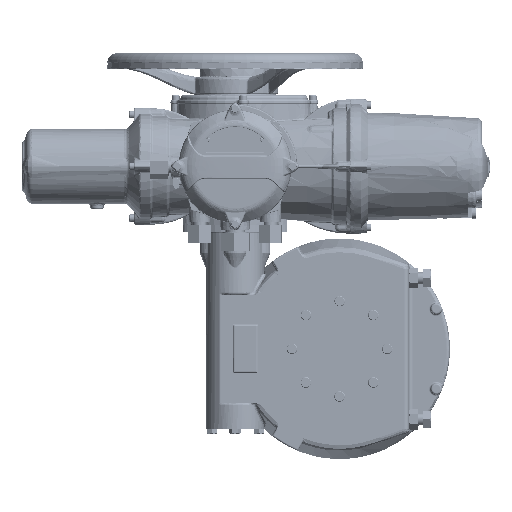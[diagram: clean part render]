
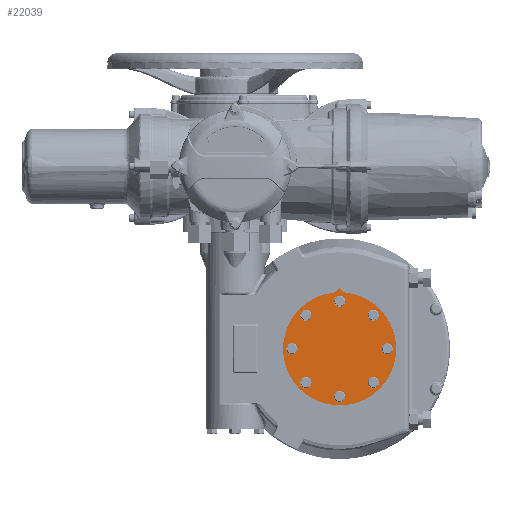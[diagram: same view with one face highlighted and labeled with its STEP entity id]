
A CAD part, front view. The second image highlights one B-rep face of the part: STEP entity #22039.
In plain terms, the highlighted planar face has unit normal (0, -1, 0).
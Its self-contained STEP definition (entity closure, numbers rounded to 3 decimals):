
#22039 = ADVANCED_FACE( '', ( #45640, #45641, #45642, #45643, #45644, #45645, #45646, #45647, #45648 ), #45649, .T. );
#45640 = FACE_BOUND( '', #307048, .T. );
#45641 = FACE_BOUND( '', #307049, .T. );
#45642 = FACE_BOUND( '', #307050, .T. );
#45643 = FACE_BOUND( '', #307051, .T. );
#45644 = FACE_BOUND( '', #307052, .T. );
#45645 = FACE_BOUND( '', #307053, .T. );
#45646 = FACE_BOUND( '', #307054, .T. );
#45647 = FACE_BOUND( '', #307055, .T. );
#45648 = FACE_OUTER_BOUND( '', #307056, .T. );
#45649 = PLANE( '', #307057 );
#307048 = EDGE_LOOP( '', ( #393980 ) );
#307049 = EDGE_LOOP( '', ( #393981 ) );
#307050 = EDGE_LOOP( '', ( #393982 ) );
#307051 = EDGE_LOOP( '', ( #393983 ) );
#307052 = EDGE_LOOP( '', ( #393984 ) );
#307053 = EDGE_LOOP( '', ( #393985 ) );
#307054 = EDGE_LOOP( '', ( #393986 ) );
#307055 = EDGE_LOOP( '', ( #393987 ) );
#307056 = EDGE_LOOP( '', ( #393988, #393989, #393990 ) );
#307057 = AXIS2_PLACEMENT_3D( '', #393991, #393992, #393993 );
#393980 = ORIENTED_EDGE( '', *, *, #423127, .F. );
#393981 = ORIENTED_EDGE( '', *, *, #407543, .F. );
#393982 = ORIENTED_EDGE( '', *, *, #425291, .F. );
#393983 = ORIENTED_EDGE( '', *, *, #407906, .F. );
#393984 = ORIENTED_EDGE( '', *, *, #400928, .F. );
#393985 = ORIENTED_EDGE( '', *, *, #421393, .F. );
#393986 = ORIENTED_EDGE( '', *, *, #414273, .F. );
#393987 = ORIENTED_EDGE( '', *, *, #420040, .F. );
#393988 = ORIENTED_EDGE( '', *, *, #424627, .T. );
#393989 = ORIENTED_EDGE( '', *, *, #418044, .T. );
#393990 = ORIENTED_EDGE( '', *, *, #423469, .T. );
#393991 = CARTESIAN_POINT( '', ( 177.8, -53.95, -310.14 ) );
#393992 = DIRECTION( '', ( 0., -1., 0. ) );
#393993 = DIRECTION( '', ( 0., 0., 1. ) );
#400928 = EDGE_CURVE( '', #427887, #427887, #427888, .T. );
#407543 = EDGE_CURVE( '', #439317, #439317, #439318, .T. );
#407906 = EDGE_CURVE( '', #439914, #439914, #439915, .T. );
#414273 = EDGE_CURVE( '', #449657, #449657, #449658, .T. );
#418044 = EDGE_CURVE( '', #454874, #454872, #454875, .T. );
#420040 = EDGE_CURVE( '', #457495, #457495, #457496, .T. );
#421393 = EDGE_CURVE( '', #459131, #459131, #459132, .T. );
#423127 = EDGE_CURVE( '', #461230, #461230, #461231, .T. );
#423469 = EDGE_CURVE( '', #454872, #461620, #461622, .T. );
#424627 = EDGE_CURVE( '', #461620, #454874, #462906, .T. );
#425291 = EDGE_CURVE( '', #463625, #463625, #463626, .T. );
#427887 = VERTEX_POINT( '', #469097 );
#427888 = CIRCLE( '', #469098, 9.5 );
#439317 = VERTEX_POINT( '', #520761 );
#439318 = CIRCLE( '', #520762, 9.5 );
#439914 = VERTEX_POINT( '', #523281 );
#439915 = CIRCLE( '', #523282, 9.5 );
#449657 = VERTEX_POINT( '', #569075 );
#449658 = CIRCLE( '', #569076, 9.5 );
#454872 = VERTEX_POINT( '', #596168 );
#454874 = VERTEX_POINT( '', #596171 );
#454875 = LINE( '', #596172, #596173 );
#457495 = VERTEX_POINT( '', #609378 );
#457496 = CIRCLE( '', #609379, 9.5 );
#459131 = VERTEX_POINT( '', #617955 );
#459132 = CIRCLE( '', #617956, 9.5 );
#461230 = VERTEX_POINT( '', #628345 );
#461231 = CIRCLE( '', #628346, 9.5 );
#461620 = VERTEX_POINT( '', #630076 );
#461622 = LINE( '', #630079, #630080 );
#462906 = CIRCLE( '', #636485, 96.25 );
#463625 = VERTEX_POINT( '', #639355 );
#463626 = CIRCLE( '', #639356, 9.5 );
#469097 = CARTESIAN_POINT( '', ( 187.3, -53.95, -391.14 ) );
#469098 = AXIS2_PLACEMENT_3D( '', #646319, #646320, #646321 );
#520761 = CARTESIAN_POINT( '', ( 244.576, -53.95, -252.864 ) );
#520762 = AXIS2_PLACEMENT_3D( '', #652882, #652883, #652884 );
#523281 = CARTESIAN_POINT( '', ( 130.024, -53.95, -367.416 ) );
#523282 = AXIS2_PLACEMENT_3D( '', #653263, #653264, #653265 );
#569075 = CARTESIAN_POINT( '', ( 187.3, -53.95, -229.14 ) );
#569076 = AXIS2_PLACEMENT_3D( '', #659730, #659731, #659732 );
#596168 = CARTESIAN_POINT( '', ( 177.8, -53.95, -206.39 ) );
#596171 = CARTESIAN_POINT( '', ( 185.618, -53.95, -214.208 ) );
#596172 = CARTESIAN_POINT( '', ( 185.618, -53.95, -214.208 ) );
#596173 = VECTOR( '', #663295, 1000. );
#609378 = CARTESIAN_POINT( '', ( 106.3, -53.95, -310.14 ) );
#609379 = AXIS2_PLACEMENT_3D( '', #665145, #665146, #665147 );
#617955 = CARTESIAN_POINT( '', ( 268.3, -53.95, -310.14 ) );
#617956 = AXIS2_PLACEMENT_3D( '', #666186, #666187, #666188 );
#628345 = CARTESIAN_POINT( '', ( 130.024, -53.95, -252.864 ) );
#628346 = AXIS2_PLACEMENT_3D( '', #667521, #667522, #667523 );
#630076 = CARTESIAN_POINT( '', ( 169.982, -53.95, -214.208 ) );
#630079 = CARTESIAN_POINT( '', ( 177.8, -53.95, -206.39 ) );
#630080 = VECTOR( '', #667759, 1000. );
#636485 = AXIS2_PLACEMENT_3D( '', #668525, #668526, #668527 );
#639355 = CARTESIAN_POINT( '', ( 244.576, -53.95, -367.416 ) );
#639356 = AXIS2_PLACEMENT_3D( '', #668926, #668927, #668928 );
#646319 = CARTESIAN_POINT( '', ( 177.8, -53.95, -391.14 ) );
#646320 = DIRECTION( '', ( 0., -1., 0. ) );
#646321 = DIRECTION( '', ( 1., 0., 0. ) );
#652882 = CARTESIAN_POINT( '', ( 235.076, -53.95, -252.864 ) );
#652883 = DIRECTION( '', ( 0., -1., 0. ) );
#652884 = DIRECTION( '', ( 1., 0., 0. ) );
#653263 = CARTESIAN_POINT( '', ( 120.524, -53.95, -367.416 ) );
#653264 = DIRECTION( '', ( 0., -1., 0. ) );
#653265 = DIRECTION( '', ( 1., 0., 0. ) );
#659730 = CARTESIAN_POINT( '', ( 177.8, -53.95, -229.14 ) );
#659731 = DIRECTION( '', ( 0., -1., 0. ) );
#659732 = DIRECTION( '', ( 1., 0., 0. ) );
#663295 = DIRECTION( '', ( -0.707, 0., 0.707 ) );
#665145 = CARTESIAN_POINT( '', ( 96.8, -53.95, -310.14 ) );
#665146 = DIRECTION( '', ( 0., -1., 0. ) );
#665147 = DIRECTION( '', ( 1., 0., 0. ) );
#666186 = CARTESIAN_POINT( '', ( 258.8, -53.95, -310.14 ) );
#666187 = DIRECTION( '', ( 0., -1., 0. ) );
#666188 = DIRECTION( '', ( 1., 0., 0. ) );
#667521 = CARTESIAN_POINT( '', ( 120.524, -53.95, -252.864 ) );
#667522 = DIRECTION( '', ( 0., -1., 0. ) );
#667523 = DIRECTION( '', ( 1., 0., 0. ) );
#667759 = DIRECTION( '', ( -0.707, 0., -0.707 ) );
#668525 = CARTESIAN_POINT( '', ( 177.8, -53.95, -310.14 ) );
#668526 = DIRECTION( '', ( 0., -1., 0. ) );
#668527 = DIRECTION( '', ( 0., 0., 1. ) );
#668926 = CARTESIAN_POINT( '', ( 235.076, -53.95, -367.416 ) );
#668927 = DIRECTION( '', ( 0., -1., 0. ) );
#668928 = DIRECTION( '', ( 1., 0., 0. ) );
